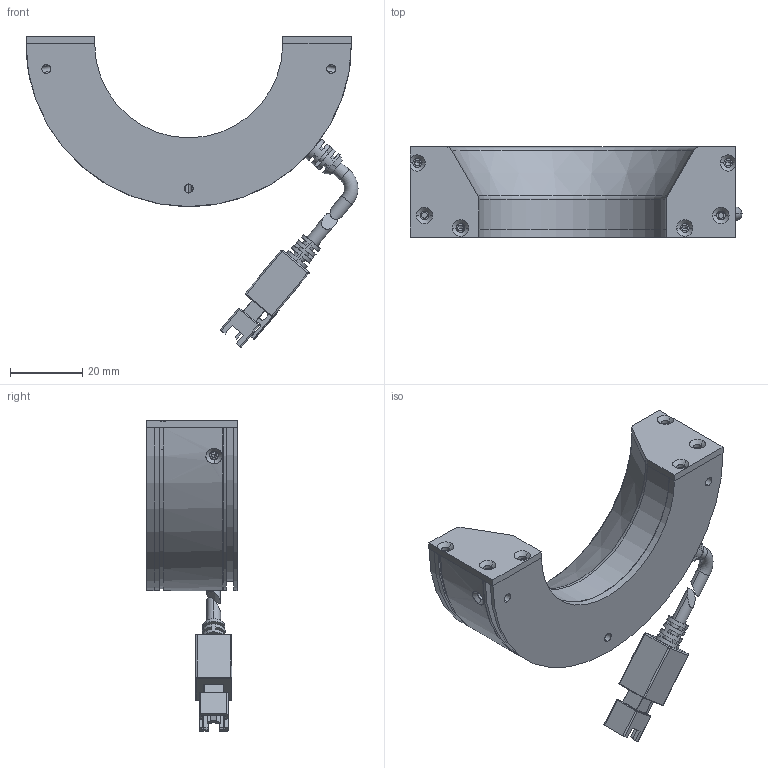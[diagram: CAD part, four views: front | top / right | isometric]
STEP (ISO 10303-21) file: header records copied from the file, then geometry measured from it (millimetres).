
FILE_DESCRIPTION (( 'STEP AP203' ), '1' );
FILE_NAME ('PPX-RIC9060-B.STEP', '2022-08-27T03:04:53', ( 'Windows 蚚誧' ), ( 'Microsoft' ), 'SwSTEP 2.0', 'SolidWorks 2016', '' );
FILE_SCHEMA (( 'CONFIG_CONTROL_DESIGN' ));
Length unit declared in the file: millimetre
Products named in the file (2): PPX-RIC9060-B
Bounding box: 91.81 x 25 x 85.95 mm (x, y, z)
Volume: 35886.2 mm3; surface area: 33673.6 mm2
Topology: 8 solids, 8 shells, 473 faces, 1230 edges, 778 vertices
Faces by surface type: plane 198, cylinder 156, cone 86, torus 27, sphere 4, bspline 2
Entity records: 15325 total; most frequent: CARTESIAN_POINT 3363, DIRECTION 2537, ORIENTED_EDGE 2424, EDGE_CURVE 1212, AXIS2_PLACEMENT_3D 916, VERTEX_POINT 778, VECTOR 705, LINE 705
